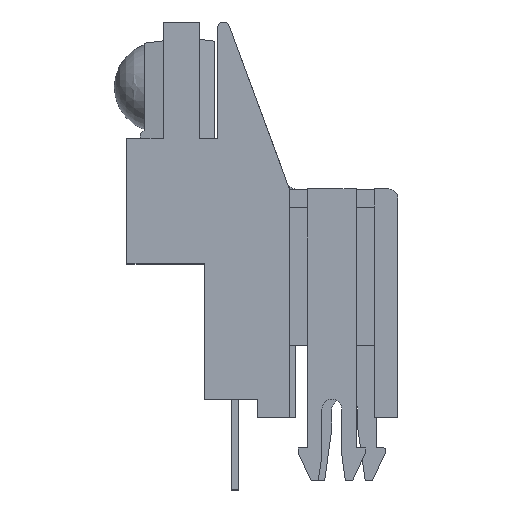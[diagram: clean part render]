
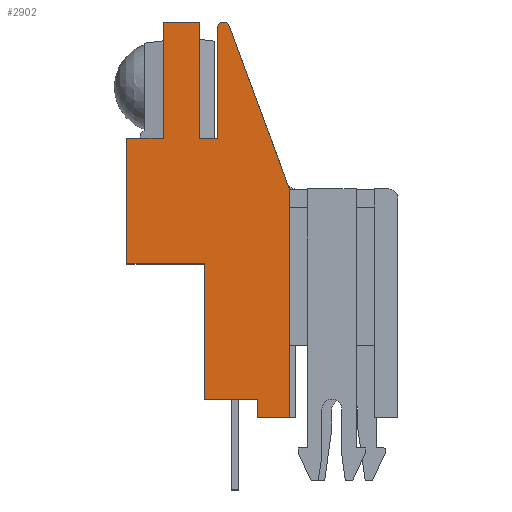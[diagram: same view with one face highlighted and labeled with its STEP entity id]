
A CAD part, top view. The second image highlights one B-rep face of the part: STEP entity #2902.
In plain terms, the highlighted planar face has unit normal (0, 0, 1).
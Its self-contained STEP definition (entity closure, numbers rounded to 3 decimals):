
#264=CARTESIAN_POINT('',(-7.25,15.45,3.725));
#265=VERTEX_POINT('',#264);
#272=CARTESIAN_POINT('',(-5.25,15.45,3.725));
#273=VERTEX_POINT('',#272);
#274=CARTESIAN_POINT('',(-5.25,15.45,3.725));
#275=DIRECTION('',(-1.0,0.0,0.0));
#276=VECTOR('',#275,2.);
#277=LINE('',#274,#276);
#278=EDGE_CURVE('',#273,#265,#277,.T.);
#992=CARTESIAN_POINT('',(-5.25,21.9,3.725));
#993=VERTEX_POINT('',#992);
#1002=CARTESIAN_POINT('',(-3.25,21.9,3.725));
#1003=VERTEX_POINT('',#1002);
#1004=CARTESIAN_POINT('',(-5.25,21.9,3.725));
#1005=DIRECTION('',(1.0,0.0,0.0));
#1006=VECTOR('',#1005,2.0);
#1007=LINE('',#1004,#1006);
#1008=EDGE_CURVE('',#993,#1003,#1007,.T.);
#1125=CARTESIAN_POINT('',(-3.25,15.45,3.725));
#1126=VERTEX_POINT('',#1125);
#1127=CARTESIAN_POINT('',(-3.25,21.9,3.725));
#1128=DIRECTION('',(0.0,-1.0,0.0));
#1129=VECTOR('',#1128,6.45);
#1130=LINE('',#1127,#1129);
#1131=EDGE_CURVE('',#1003,#1126,#1130,.T.);
#1159=CARTESIAN_POINT('',(-5.25,15.45,3.725));
#1160=DIRECTION('',(0.0,1.0,0.0));
#1161=VECTOR('',#1160,6.45);
#1162=LINE('',#1159,#1161);
#1163=EDGE_CURVE('',#273,#993,#1162,.T.);
#1185=CARTESIAN_POINT('',(-2.25,15.45,3.725));
#1186=VERTEX_POINT('',#1185);
#1187=CARTESIAN_POINT('',(-2.25,15.45,3.725));
#1188=DIRECTION('',(-1.0,0.0,0.0));
#1189=VECTOR('',#1188,1.0);
#1190=LINE('',#1187,#1189);
#1191=EDGE_CURVE('',#1186,#1126,#1190,.T.);
#2082=CARTESIAN_POINT('',(1.719,12.734,3.725));
#2083=VERTEX_POINT('',#2082);
#2090=CARTESIAN_POINT('',(1.75,12.561,3.725));
#2091=VERTEX_POINT('',#2090);
#2092=CARTESIAN_POINT('',(1.25,12.561,3.725));
#2093=DIRECTION('',(0.0,0.0,-1.0));
#2094=DIRECTION('',(0.984,0.175,0.0));
#2095=AXIS2_PLACEMENT_3D('',#2092,#2093,#2094);
#2096=CIRCLE('',#2095,0.5);
#2097=EDGE_CURVE('',#2083,#2091,#2096,.T.);
#2211=CARTESIAN_POINT('',(1.75,0.0,3.725));
#2212=VERTEX_POINT('',#2211);
#2213=CARTESIAN_POINT('',(1.75,0.0,3.725));
#2214=DIRECTION('',(0.0,1.0,0.0));
#2215=VECTOR('',#2214,12.561);
#2216=LINE('',#2213,#2215);
#2217=EDGE_CURVE('',#2212,#2091,#2216,.T.);
#2598=CARTESIAN_POINT('',(0.0,0.0,3.725));
#2599=VERTEX_POINT('',#2598);
#2600=CARTESIAN_POINT('',(0.0,0.,3.725));
#2601=DIRECTION('',(1.0,0.0,0.0));
#2602=VECTOR('',#2601,1.75);
#2603=LINE('',#2600,#2602);
#2604=EDGE_CURVE('',#2599,#2212,#2603,.T.);
#2826=CARTESIAN_POINT('',(0.28,9.721,3.725));
#2827=DIRECTION('',(0.0,0.0,1.0));
#2828=DIRECTION('',(1.0,0.0,0.0));
#2829=AXIS2_PLACEMENT_3D('',#2826,#2827,#2828);
#2830=PLANE('',#2829);
#2831=ORIENTED_EDGE('',*,*,#2097,.F.);
#2832=CARTESIAN_POINT('',(-1.572,21.671,3.725));
#2833=VERTEX_POINT('',#2832);
#2834=CARTESIAN_POINT('',(1.719,12.734,3.725));
#2835=DIRECTION('',(-0.346,0.938,0.0));
#2836=VECTOR('',#2835,9.524);
#2837=LINE('',#2834,#2836);
#2838=EDGE_CURVE('',#2083,#2833,#2837,.T.);
#2839=ORIENTED_EDGE('',*,*,#2838,.T.);
#2840=CARTESIAN_POINT('',(-2.25,21.55,3.725));
#2841=VERTEX_POINT('',#2840);
#2842=CARTESIAN_POINT('',(-1.9,21.55,3.725));
#2843=DIRECTION('',(0.0,0.0,1.0));
#2844=DIRECTION('',(-0.938,-0.346,0.0));
#2845=AXIS2_PLACEMENT_3D('',#2842,#2843,#2844);
#2846=CIRCLE('',#2845,0.35);
#2847=EDGE_CURVE('',#2833,#2841,#2846,.T.);
#2848=ORIENTED_EDGE('',*,*,#2847,.T.);
#2849=CARTESIAN_POINT('',(-2.25,21.55,3.725));
#2850=DIRECTION('',(0.0,-1.0,0.0));
#2851=VECTOR('',#2850,6.1);
#2852=LINE('',#2849,#2851);
#2853=EDGE_CURVE('',#2841,#1186,#2852,.T.);
#2854=ORIENTED_EDGE('',*,*,#2853,.T.);
#2855=ORIENTED_EDGE('',*,*,#1191,.T.);
#2856=ORIENTED_EDGE('',*,*,#1131,.F.);
#2857=ORIENTED_EDGE('',*,*,#1008,.F.);
#2858=ORIENTED_EDGE('',*,*,#1163,.F.);
#2859=ORIENTED_EDGE('',*,*,#278,.T.);
#2860=CARTESIAN_POINT('',(-7.25,8.5,3.725));
#2861=VERTEX_POINT('',#2860);
#2862=CARTESIAN_POINT('',(-7.25,15.45,3.725));
#2863=DIRECTION('',(0.0,-1.0,0.0));
#2864=VECTOR('',#2863,6.95);
#2865=LINE('',#2862,#2864);
#2866=EDGE_CURVE('',#265,#2861,#2865,.T.);
#2867=ORIENTED_EDGE('',*,*,#2866,.T.);
#2868=CARTESIAN_POINT('',(-2.95,8.5,3.725));
#2869=VERTEX_POINT('',#2868);
#2870=CARTESIAN_POINT('',(-7.25,8.5,3.725));
#2871=DIRECTION('',(1.0,0.0,0.0));
#2872=VECTOR('',#2871,4.3);
#2873=LINE('',#2870,#2872);
#2874=EDGE_CURVE('',#2861,#2869,#2873,.T.);
#2875=ORIENTED_EDGE('',*,*,#2874,.T.);
#2876=CARTESIAN_POINT('',(-2.95,1.0,3.725));
#2877=VERTEX_POINT('',#2876);
#2878=CARTESIAN_POINT('',(-2.95,8.5,3.725));
#2879=DIRECTION('',(0.0,-1.0,0.0));
#2880=VECTOR('',#2879,7.5);
#2881=LINE('',#2878,#2880);
#2882=EDGE_CURVE('',#2869,#2877,#2881,.T.);
#2883=ORIENTED_EDGE('',*,*,#2882,.T.);
#2884=CARTESIAN_POINT('',(0.0,1.0,3.725));
#2885=VERTEX_POINT('',#2884);
#2886=CARTESIAN_POINT('',(-2.95,1.0,3.725));
#2887=DIRECTION('',(1.0,0.0,0.0));
#2888=VECTOR('',#2887,2.95);
#2889=LINE('',#2886,#2888);
#2890=EDGE_CURVE('',#2877,#2885,#2889,.T.);
#2891=ORIENTED_EDGE('',*,*,#2890,.T.);
#2892=CARTESIAN_POINT('',(0.0,1.0,3.725));
#2893=DIRECTION('',(0.0,-1.0,0.0));
#2894=VECTOR('',#2893,1.0);
#2895=LINE('',#2892,#2894);
#2896=EDGE_CURVE('',#2885,#2599,#2895,.T.);
#2897=ORIENTED_EDGE('',*,*,#2896,.T.);
#2898=ORIENTED_EDGE('',*,*,#2604,.T.);
#2899=ORIENTED_EDGE('',*,*,#2217,.T.);
#2900=EDGE_LOOP('',(#2831,#2839,#2848,#2854,#2855,#2856,#2857,#2858,#2859,#2867,#2875,#2883,#2891,#2897,#2898,#2899));
#2901=FACE_OUTER_BOUND('',#2900,.T.);
#2902=ADVANCED_FACE('',(#2901),#2830,.T.);
